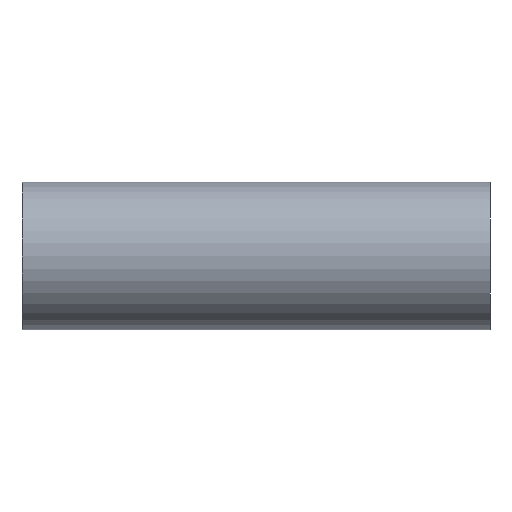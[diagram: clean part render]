
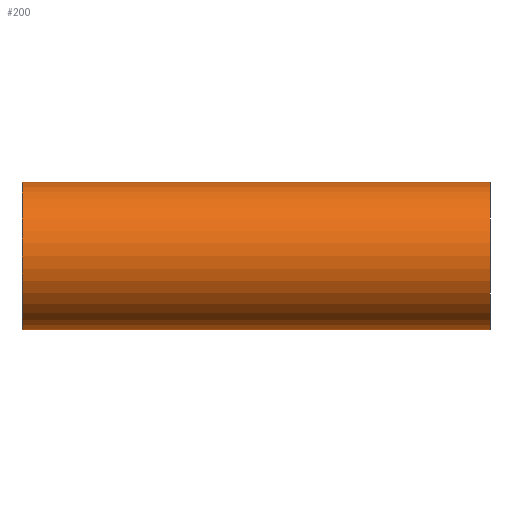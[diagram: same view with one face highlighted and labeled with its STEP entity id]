
A CAD part, front view. The second image highlights one B-rep face of the part: STEP entity #200.
In plain terms, the highlighted cylindrical face has radius 19.05 mm (diameter 38.1 mm), a partial arc.
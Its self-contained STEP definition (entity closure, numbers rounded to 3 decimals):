
#3 = VECTOR ( 'NONE', #386, 1000. ) ;
#4 = CARTESIAN_POINT ( 'NONE',  ( 60.3, 0., -19.05 ) ) ;
#5 = VERTEX_POINT ( 'NONE', #174 ) ;
#7 = EDGE_LOOP ( 'NONE', ( #393, #208, #291, #77, #207, #41 ) ) ;
#10 = VERTEX_POINT ( 'NONE', #4 ) ;
#15 = EDGE_CURVE ( 'NONE', #375, #71, #104, .T. ) ;
#18 = FACE_OUTER_BOUND ( 'NONE', #7, .T. ) ;
#20 = VECTOR ( 'NONE', #363, 1000. ) ;
#22 = VERTEX_POINT ( 'NONE', #342 ) ;
#27 = VECTOR ( 'NONE', #129, 1000. ) ;
#41 = ORIENTED_EDGE ( 'NONE', *, *, #292, .F. ) ;
#71 = VERTEX_POINT ( 'NONE', #405 ) ;
#77 = ORIENTED_EDGE ( 'NONE', *, *, #81, .T. ) ;
#81 = EDGE_CURVE ( 'NONE', #220, #10, #372, .T. ) ;
#86 = EDGE_CURVE ( 'NONE', #375, #22, #294, .T. ) ;
#89 = CIRCLE ( 'NONE', #305, 19.05 ) ;
#98 = CARTESIAN_POINT ( 'NONE',  ( -60.3, 0., 19.05 ) ) ;
#104 = CIRCLE ( 'NONE', #327, 19.05 ) ;
#108 = EDGE_CURVE ( 'NONE', #71, #220, #314, .T. ) ;
#117 = DIRECTION ( 'NONE',  ( 0., 0., -1. ) ) ;
#122 = DIRECTION ( 'NONE',  ( -1., 0., 0. ) ) ;
#123 = CARTESIAN_POINT ( 'NONE',  ( 60.3, 0., 0. ) ) ;
#129 = DIRECTION ( 'NONE',  ( 1., 0., 0. ) ) ;
#131 = CARTESIAN_POINT ( 'NONE',  ( -60.3, 0., -19.05 ) ) ;
#163 = CYLINDRICAL_SURFACE ( 'NONE', #187, 19.05 ) ;
#174 = CARTESIAN_POINT ( 'NONE',  ( 60.3, 0., 19.05 ) ) ;
#176 = CARTESIAN_POINT ( 'NONE',  ( -60.3, 0., 19.05 ) ) ;
#183 = DIRECTION ( 'NONE',  ( 1., 0., 0. ) ) ;
#187 = AXIS2_PLACEMENT_3D ( 'NONE', #265, #302, #295 ) ;
#199 = CARTESIAN_POINT ( 'NONE',  ( -60.3, 0., 0. ) ) ;
#200 = ADVANCED_FACE ( 'NONE', ( #18 ), #163, .T. ) ;
#201 = DIRECTION ( 'NONE',  ( 1., 0., 0. ) ) ;
#207 = ORIENTED_EDGE ( 'NONE', *, *, #336, .T. ) ;
#208 = ORIENTED_EDGE ( 'NONE', *, *, #15, .T. ) ;
#209 = DIRECTION ( 'NONE',  ( 0., 0., -1. ) ) ;
#220 = VERTEX_POINT ( 'NONE', #300 ) ;
#254 = LINE ( 'NONE', #176, #335 ) ;
#265 = CARTESIAN_POINT ( 'NONE',  ( -60.3, 0., 0. ) ) ;
#291 = ORIENTED_EDGE ( 'NONE', *, *, #108, .T. ) ;
#292 = EDGE_CURVE ( 'NONE', #22, #5, #254, .T. ) ;
#294 = LINE ( 'NONE', #368, #27 ) ;
#295 = DIRECTION ( 'NONE',  ( 0., 0., -1. ) ) ;
#300 = CARTESIAN_POINT ( 'NONE',  ( 0., 0., -19.05 ) ) ;
#302 = DIRECTION ( 'NONE',  ( 1., 0., 0. ) ) ;
#305 = AXIS2_PLACEMENT_3D ( 'NONE', #123, #122, #117 ) ;
#314 = LINE ( 'NONE', #131, #20 ) ;
#327 = AXIS2_PLACEMENT_3D ( 'NONE', #199, #201, #209 ) ;
#335 = VECTOR ( 'NONE', #183, 1000. ) ;
#336 = EDGE_CURVE ( 'NONE', #10, #5, #89, .T. ) ;
#342 = CARTESIAN_POINT ( 'NONE',  ( 0., 0., 19.05 ) ) ;
#363 = DIRECTION ( 'NONE',  ( 1., 0., 0. ) ) ;
#368 = CARTESIAN_POINT ( 'NONE',  ( -60.3, 0., 19.05 ) ) ;
#372 = LINE ( 'NONE', #377, #3 ) ;
#375 = VERTEX_POINT ( 'NONE', #98 ) ;
#377 = CARTESIAN_POINT ( 'NONE',  ( -60.3, 0., -19.05 ) ) ;
#386 = DIRECTION ( 'NONE',  ( 1., 0., 0. ) ) ;
#393 = ORIENTED_EDGE ( 'NONE', *, *, #86, .F. ) ;
#405 = CARTESIAN_POINT ( 'NONE',  ( -60.3, 0., -19.05 ) ) ;
